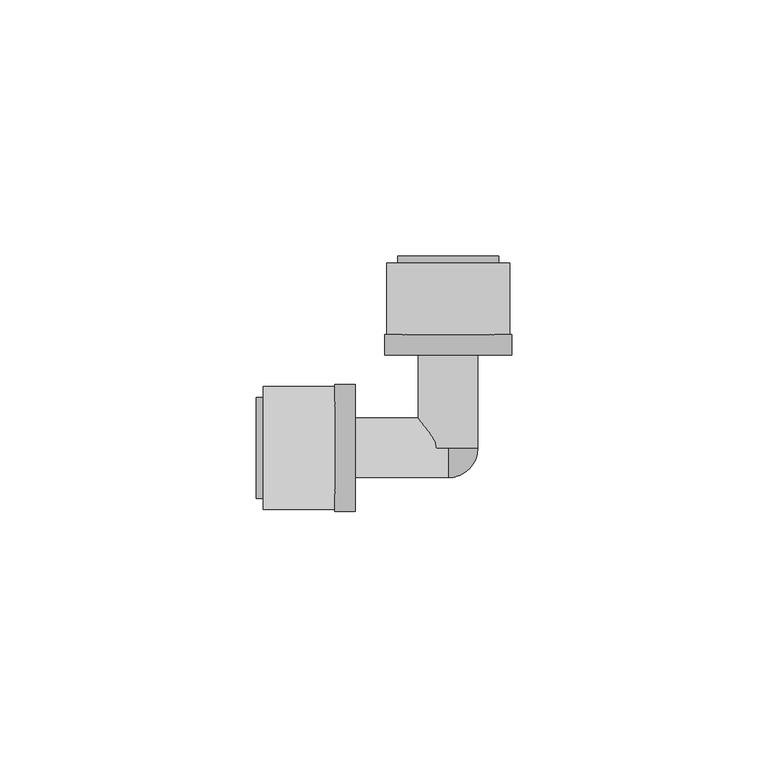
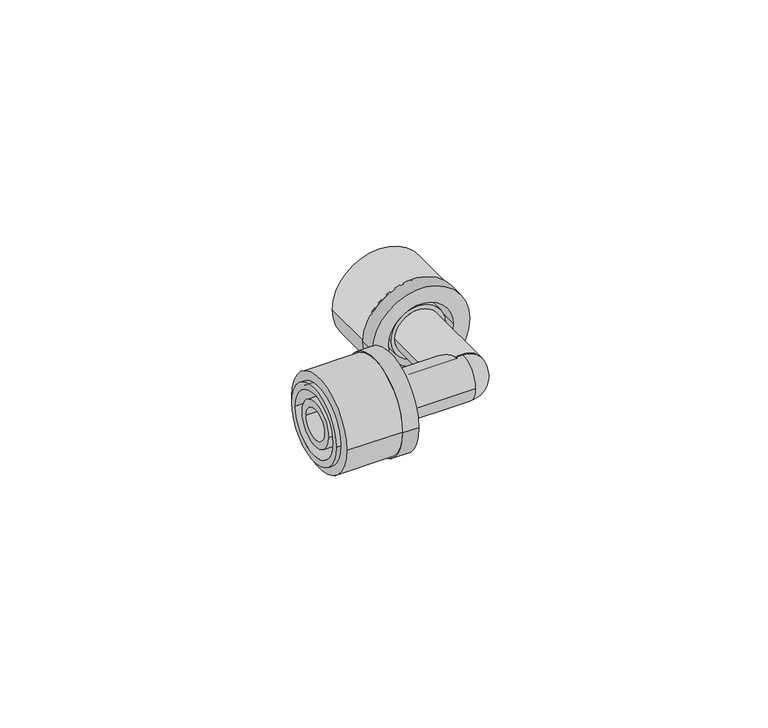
"""IFC4 building model written with IfcOpenShell, lengths in millimetres: pipe fitting geometry, FASTLOC_Corner LX : FSL C LX CZ."""

from ifc_helpers import new_model, si_unit, point, frame, origin, origin_2d, place, context, project, spatial, polyline, circle_curve, ellipse_curve, trimmed, segment, composite_curve, outline, extrude, source, transform, mapped, element, save
from ifc_brep_helpers import plane_surface, cylinder_surface, revolved_surface, advanced_brep


def pipe_fitting_b55198ad(model_context):
    return source(origin(), model_context, "Body", "SolidModel", [
        extrude(outline(composite_curve([segment(trimmed(circle_curve(origin_2d(), 12.0), [point((0.0, 12.0))], [point((0.0, -12.0))], False, "CARTESIAN"), True, "CONTINUOUS"), segment(trimmed(circle_curve(origin_2d(), 12.0), [point((0.0, -12.0))], [point((0.0, 12.0))], False, "CARTESIAN"), True, "CONTINUOUS")], self_intersect=False), holes=[composite_curve([segment(trimmed(circle_curve(origin_2d(), 8.85), [point((0.0, 8.85))], [point((0.0, -8.85))], True, "CARTESIAN"), True, "CONTINUOUS"), segment(trimmed(circle_curve(origin_2d(), 8.85), [point((0.0, -8.85))], [point((0.0, 8.85))], True, "CARTESIAN"), True, "CONTINUOUS")], self_intersect=False)]), frame((0.0, 22.1, 0.0), z_axis=(0.0, 1.0, 0.0), x_axis=(0.0, 0.0, 1.0)), (0.0, 0.0, 1.0), 14.0),
        advanced_brep(
        [(-12.35, 22.1, 0.0), (12.35, 22.1, 0.0), (12.35, 18.1, 0.0), (-12.35, 18.1, 0.0), (-9.85, 37.4, 0.0), (9.85, 37.4, 0.0), (9.85, 22.1, 0.0), (-9.85, 22.1, 0.0), (-8.15, 18.1, 0.0), (8.15, 18.1, 0.0), (8.15, 37.4, 0.0), (-8.15, 37.4, 0.0)],
        [
            (0, 1, circle_curve(frame((0.0, 22.1, 0.0), z_axis=(0.0, -1.0, 0.0), x_axis=(1.0, 0.0, 0.0)), 12.35)),
            (1, 2),
            (2, 3, circle_curve(frame((0.0, 18.1, 0.0), z_axis=(0.0, 1.0, 0.0), x_axis=(1.0, 0.0, 0.0)), 12.35)),
            (3, 0),
            (4, 5, circle_curve(frame((0.0, 37.4, 0.0), z_axis=(0.0, -1.0, 0.0), x_axis=(1.0, 0.0, 0.0)), 9.85)),
            (5, 6),
            (6, 7, circle_curve(frame((0.0, 22.1, 0.0), z_axis=(0.0, 1.0, 0.0), x_axis=(1.0, 0.0, 0.0)), 9.85)),
            (7, 4),
            (8, 9, circle_curve(frame((0.0, 18.1, 0.0), z_axis=(0.0, -1.0, 0.0), x_axis=(1.0, 0.0, 0.0)), 8.15)),
            (9, 10),
            (10, 11, circle_curve(frame((0.0, 37.4, 0.0), z_axis=(0.0, 1.0, 0.0), x_axis=(1.0, 0.0, 0.0)), 8.15)),
            (11, 8),
            (1, 0, circle_curve(frame((0.0, 22.1, 0.0), z_axis=(0.0, -1.0, 0.0), x_axis=(-1.0, 0.0, 0.0)), 12.35)),
            (3, 2, circle_curve(frame((0.0, 18.1, 0.0), z_axis=(0.0, 1.0, 0.0), x_axis=(-1.0, 0.0, 0.0)), 12.35)),
            (6, 7, circle_curve(frame((0.0, 22.1, 0.0), z_axis=(0.0, -1.0, 0.0), x_axis=(-1.0, 0.0, 0.0)), 9.85)),
            (5, 4, circle_curve(frame((0.0, 37.4, 0.0), z_axis=(0.0, -1.0, 0.0), x_axis=(-1.0, 0.0, 0.0)), 9.85)),
            (10, 11, circle_curve(frame((0.0, 37.4, 0.0), z_axis=(0.0, -1.0, 0.0), x_axis=(-1.0, 0.0, 0.0)), 8.15)),
            (9, 8, circle_curve(frame((0.0, 18.1, 0.0), z_axis=(0.0, -1.0, 0.0), x_axis=(-1.0, 0.0, 0.0)), 8.15)),
        ],
        [
            cylinder_surface(frame((0.0, 18.1, 0.0), z_axis=(0.0, 1.0, 0.0), x_axis=(1.0, 0.0, 0.0)), 12.35),
            cylinder_surface(frame((0.0, 18.1, 0.0), z_axis=(0.0, 1.0, 0.0), x_axis=(1.0, 0.0, 0.0)), 9.85),
            revolved_surface(polyline([(8.15, 37.4, 0.0), (8.15, 18.1, 0.0)]), (0.0, 18.1, 0.0), (0.0, 1.0, 0.0)),
            cylinder_surface(frame((0.0, 18.1, 0.0), z_axis=(0.0, 1.0, 0.0), x_axis=(-1.0, 0.0, 0.0)), 12.35),
            plane_surface(frame((0.0, 22.1, 0.0), z_axis=(0.0, 1.0, 0.0), x_axis=(-1.0, 0.0, 0.0))),
            cylinder_surface(frame((0.0, 18.1, 0.0), z_axis=(0.0, 1.0, 0.0), x_axis=(-1.0, 0.0, 0.0)), 9.85),
            plane_surface(frame((0.0, 37.4, 0.0), z_axis=(0.0, 1.0, 0.0), x_axis=(-1.0, 0.0, 0.0))),
            revolved_surface(polyline([(-8.15, 37.4, 0.0), (-8.15, 18.1, 0.0)]), (0.0, 18.1, 0.0), (0.0, 1.0, 0.0)),
            plane_surface(frame((0.0, 18.1, 0.0), z_axis=(0.0, -1.0, 0.0), x_axis=(-1.0, 0.0, 0.0))),
        ],
        [
            (0, [[1, 2, 3, 4]]),
            (1, [[5, 6, 7, 8]]),
            (2, [[9, 10, 11, 12]]),
            (3, [[13, -4, 14, -2]]),
            (4, [[-13, -1], [15, -7]]),
            (5, [[16, -8, -15, -6]]),
            (6, [[-16, -5], [17, -11]]),
            (7, [[18, -12, -17, -10]]),
            (8, [[-14, -3], [-18, -9]]),
        ],
    ),
        extrude(outline(composite_curve([segment(trimmed(circle_curve(origin_2d(), 12.0), [point((12.0, 0.0))], [point((-12.0, 0.0))], False, "CARTESIAN"), True, "CONTINUOUS"), segment(trimmed(circle_curve(origin_2d(), 12.0), [point((-12.0, 0.0))], [point((12.0, 0.0))], False, "CARTESIAN"), True, "CONTINUOUS")], self_intersect=False), holes=[composite_curve([segment(trimmed(circle_curve(origin_2d(), 8.85), [point((8.85, 0.0))], [point((-8.85, 0.0))], True, "CARTESIAN"), True, "CONTINUOUS"), segment(trimmed(circle_curve(origin_2d(), 8.85), [point((-8.85, 0.0))], [point((8.85, 0.0))], True, "CARTESIAN"), True, "CONTINUOUS")], self_intersect=False)]), frame((-36.1, 0.0, 0.0), z_axis=(1.0, 0.0, 0.0), x_axis=(0.0, 1.0, 0.0)), (0.0, 0.0, 1.0), 14.0),
        advanced_brep(
        [(-22.1, -12.35, 0.0), (-22.1, 12.35, 0.0), (-18.1, 12.35, 0.0), (-18.1, -12.35, 0.0), (-37.4, -9.85, 0.0), (-37.4, 9.85, 0.0), (-22.1, 9.85, 0.0), (-22.1, -9.85, 0.0), (-18.1, -8.15, 0.0), (-18.1, 8.15, 0.0), (-37.4, 8.15, 0.0), (-37.4, -8.15, 0.0)],
        [
            (0, 1, circle_curve(frame((-22.1, 0.0, 0.0), z_axis=(1.0, 0.0, 0.0), x_axis=(0.0, 1.0, 0.0)), 12.35)),
            (1, 2),
            (2, 3, circle_curve(frame((-18.1, 0.0, 0.0), z_axis=(-1.0, 0.0, 0.0), x_axis=(0.0, 1.0, 0.0)), 12.35)),
            (3, 0),
            (4, 5, circle_curve(frame((-37.4, 0.0, 0.0), z_axis=(1.0, 0.0, 0.0), x_axis=(0.0, 1.0, 0.0)), 9.85)),
            (5, 6),
            (6, 7, circle_curve(frame((-22.1, 0.0, 0.0), z_axis=(-1.0, 0.0, 0.0), x_axis=(0.0, 1.0, 0.0)), 9.85)),
            (7, 4),
            (8, 9, circle_curve(frame((-18.1, 0.0, 0.0), z_axis=(1.0, 0.0, 0.0), x_axis=(0.0, 1.0, 0.0)), 8.15)),
            (9, 10),
            (10, 11, circle_curve(frame((-37.4, 0.0, 0.0), z_axis=(-1.0, 0.0, 0.0), x_axis=(0.0, 1.0, 0.0)), 8.15)),
            (11, 8),
            (1, 0, circle_curve(frame((-22.1, 0.0, 0.0), z_axis=(1.0, 0.0, 0.0), x_axis=(0.0, -1.0, 0.0)), 12.35)),
            (3, 2, circle_curve(frame((-18.1, 0.0, 0.0), z_axis=(-1.0, 0.0, 0.0), x_axis=(0.0, -1.0, 0.0)), 12.35)),
            (6, 7, circle_curve(frame((-22.1, 0.0, 0.0), z_axis=(1.0, 0.0, 0.0), x_axis=(0.0, -1.0, 0.0)), 9.85)),
            (5, 4, circle_curve(frame((-37.4, 0.0, 0.0), z_axis=(1.0, 0.0, 0.0), x_axis=(0.0, -1.0, 0.0)), 9.85)),
            (10, 11, circle_curve(frame((-37.4, 0.0, 0.0), z_axis=(1.0, 0.0, 0.0), x_axis=(0.0, -1.0, 0.0)), 8.15)),
            (9, 8, circle_curve(frame((-18.1, 0.0, 0.0), z_axis=(1.0, 0.0, 0.0), x_axis=(0.0, -1.0, 0.0)), 8.15)),
        ],
        [
            cylinder_surface(frame((-18.1, 0.0, 0.0), z_axis=(-1.0, 0.0, 0.0), x_axis=(0.0, 1.0, 0.0)), 12.35),
            cylinder_surface(frame((-18.1, 0.0, 0.0), z_axis=(-1.0, 0.0, 0.0), x_axis=(0.0, 1.0, 0.0)), 9.85),
            revolved_surface(polyline([(-37.4, 8.15, 0.0), (-18.1, 8.15, 0.0)]), (-18.1, 0.0, 0.0), (-1.0, 0.0, 0.0)),
            cylinder_surface(frame((-18.1, 0.0, 0.0), z_axis=(-1.0, 0.0, 0.0), x_axis=(0.0, -1.0, 0.0)), 12.35),
            plane_surface(frame((-22.1, 0.0, 0.0), z_axis=(-1.0, 0.0, 0.0), x_axis=(0.0, -1.0, 0.0))),
            cylinder_surface(frame((-18.1, 0.0, 0.0), z_axis=(-1.0, 0.0, 0.0), x_axis=(0.0, -1.0, 0.0)), 9.85),
            plane_surface(frame((-37.4, 0.0, 0.0), z_axis=(-1.0, 0.0, 0.0), x_axis=(0.0, -1.0, 0.0))),
            revolved_surface(polyline([(-37.4, -8.15, 0.0), (-18.1, -8.15, 0.0)]), (-18.1, 0.0, 0.0), (-1.0, 0.0, 0.0)),
            plane_surface(frame((-18.1, 0.0, 0.0), z_axis=(1.0, 0.0, 0.0), x_axis=(0.0, -1.0, 0.0))),
        ],
        [
            (0, [[1, 2, 3, 4]]),
            (1, [[5, 6, 7, 8]]),
            (2, [[9, 10, 11, 12]]),
            (3, [[13, -4, 14, -2]]),
            (4, [[-13, -1], [15, -7]]),
            (5, [[16, -8, -15, -6]]),
            (6, [[-16, -5], [17, -11]]),
            (7, [[18, -12, -17, -10]]),
            (8, [[-14, -3], [-18, -9]]),
        ],
    ),
        advanced_brep(
        [(3.95, 37.1, 0.0), (-3.95, 37.1, 0.0), (-3.95, 0.0, 0.0), (3.95, 0.0, 0.0), (5.8, 22.1, 0.0), (-5.8, 22.1, 0.0), (-5.8, 37.1, 0.0), (5.8, 37.1, 0.0), (6.9, 19.4, 0.0), (-6.9, 19.4, 0.0), (-6.9, 22.1, 0.0), (6.9, 22.1, 0.0), (5.8, 0.0, 0.0), (-5.8, 0.0, 0.0), (-5.8, 19.4, 0.0), (5.8, 19.4, 0.0)],
        [
            (0, 1, circle_curve(frame((0.0, 37.1, 0.0), z_axis=(0.0, 1.0, 0.0), x_axis=(-1.0, 0.0, 0.0)), 3.95)),
            (1, 2),
            (2, 3, circle_curve(frame((0.0, 0.0, 0.0), z_axis=(0.0, -1.0, 0.0), x_axis=(-1.0, 0.0, 0.0)), 3.95)),
            (3, 0),
            (4, 5, circle_curve(frame((0.0, 22.1, 0.0), z_axis=(0.0, 1.0, 0.0), x_axis=(-1.0, 0.0, 0.0)), 5.8)),
            (5, 6),
            (6, 7, circle_curve(frame((0.0, 37.1, 0.0), z_axis=(0.0, -1.0, 0.0), x_axis=(-1.0, 0.0, 0.0)), 5.8)),
            (7, 4),
            (8, 9, circle_curve(frame((0.0, 19.4, 0.0), z_axis=(0.0, 1.0, 0.0), x_axis=(-1.0, 0.0, 0.0)), 6.9)),
            (9, 10),
            (10, 11, circle_curve(frame((0.0, 22.1, 0.0), z_axis=(0.0, -1.0, 0.0), x_axis=(-1.0, 0.0, 0.0)), 6.9)),
            (11, 8),
            (12, 13, circle_curve(frame((0.0, 0.0, 0.0), z_axis=(0.0, 1.0, 0.0), x_axis=(-1.0, 0.0, 0.0)), 5.8)),
            (13, 14),
            (14, 15, circle_curve(frame((0.0, 19.4, 0.0), z_axis=(0.0, -1.0, 0.0), x_axis=(-1.0, 0.0, 0.0)), 5.8)),
            (15, 12),
            (1, 0, circle_curve(frame((0.0, 37.1, 0.0), z_axis=(0.0, 1.0, 0.0), x_axis=(1.0, 0.0, 0.0)), 3.95)),
            (3, 2, circle_curve(frame((0.0, 0.0, 0.0), z_axis=(0.0, -1.0, 0.0), x_axis=(1.0, 0.0, 0.0)), 3.95)),
            (6, 7, circle_curve(frame((0.0, 37.1, 0.0), z_axis=(0.0, 1.0, 0.0), x_axis=(1.0, 0.0, 0.0)), 5.8)),
            (5, 4, circle_curve(frame((0.0, 22.1, 0.0), z_axis=(0.0, 1.0, 0.0), x_axis=(1.0, 0.0, 0.0)), 5.8)),
            (10, 11, circle_curve(frame((0.0, 22.1, 0.0), z_axis=(0.0, 1.0, 0.0), x_axis=(1.0, 0.0, 0.0)), 6.9)),
            (9, 8, circle_curve(frame((0.0, 19.4, 0.0), z_axis=(0.0, 1.0, 0.0), x_axis=(1.0, 0.0, 0.0)), 6.9)),
            (14, 15, circle_curve(frame((0.0, 19.4, 0.0), z_axis=(0.0, 1.0, 0.0), x_axis=(1.0, 0.0, 0.0)), 5.8)),
            (13, 12, circle_curve(frame((0.0, 0.0, 0.0), z_axis=(0.0, 1.0, 0.0), x_axis=(1.0, 0.0, 0.0)), 5.8)),
        ],
        [
            revolved_surface(polyline([(-3.95, 0.0, 0.0), (-3.95, 37.1, 0.0)]), (0.0, 0.0, 0.0), (0.0, -1.0, 0.0)),
            cylinder_surface(frame((0.0, 0.0, 0.0), z_axis=(0.0, -1.0, 0.0), x_axis=(-1.0, 0.0, 0.0)), 5.8),
            cylinder_surface(frame((0.0, 0.0, 0.0), z_axis=(0.0, -1.0, 0.0), x_axis=(-1.0, 0.0, 0.0)), 6.9),
            revolved_surface(polyline([(3.95, 0.0, 0.0), (3.95, 37.1, 0.0)]), (0.0, 0.0, 0.0), (0.0, -1.0, 0.0)),
            plane_surface(frame((0.0, 37.1, 0.0), z_axis=(0.0, 1.0, 0.0), x_axis=(1.0, 0.0, 0.0))),
            cylinder_surface(frame((0.0, 0.0, 0.0), z_axis=(0.0, -1.0, 0.0), x_axis=(1.0, 0.0, 0.0)), 5.8),
            plane_surface(frame((0.0, 22.1, 0.0), z_axis=(0.0, 1.0, 0.0), x_axis=(1.0, 0.0, 0.0))),
            cylinder_surface(frame((0.0, 0.0, 0.0), z_axis=(0.0, -1.0, 0.0), x_axis=(1.0, 0.0, 0.0)), 6.9),
            plane_surface(frame((0.0, 19.4, 0.0), z_axis=(0.0, -1.0, 0.0), x_axis=(1.0, 0.0, 0.0))),
            plane_surface(frame((0.0, 0.0, 0.0), z_axis=(0.0, -1.0, 0.0), x_axis=(1.0, 0.0, 0.0))),
        ],
        [
            (0, [[1, 2, 3, 4]]),
            (1, [[5, 6, 7, 8]]),
            (2, [[9, 10, 11, 12]]),
            (1, [[13, 14, 15, 16]]),
            (3, [[17, -4, 18, -2]]),
            (4, [[19, -7], [-17, -1]]),
            (5, [[20, -8, -19, -6]]),
            (6, [[21, -11], [-20, -5]]),
            (7, [[22, -12, -21, -10]]),
            (8, [[-22, -9], [23, -15]]),
            (5, [[24, -16, -23, -14]]),
            (9, [[-24, -13], [-18, -3]]),
        ],
    ),
        advanced_brep(
        [(-37.1, 3.95, 0.0), (-37.1, -3.95, 0.0), (0.0, -3.95, 0.0), (0.0, 3.95, 0.0), (-22.1, 5.8, 0.0), (-22.1, -5.8, 0.0), (-37.1, -5.8, 0.0), (-37.1, 5.8, 0.0), (-19.4, 6.9, 0.0), (-19.4, -6.9, 0.0), (-22.1, -6.9, 0.0), (-22.1, 6.9, 0.0), (0.0, 5.8, 0.0), (0.0, -5.8, 0.0), (-19.4, -5.8, 0.0), (-19.4, 5.8, 0.0)],
        [
            (0, 1, circle_curve(frame((-37.1, 0.0, 0.0), z_axis=(-1.0, 0.0, 0.0), x_axis=(0.0, -1.0, 0.0)), 3.95)),
            (1, 2),
            (2, 3, circle_curve(frame((0.0, 0.0, 0.0), z_axis=(1.0, 0.0, 0.0), x_axis=(0.0, -1.0, 0.0)), 3.95)),
            (3, 0),
            (4, 5, circle_curve(frame((-22.1, 0.0, 0.0), z_axis=(-1.0, 0.0, 0.0), x_axis=(0.0, -1.0, 0.0)), 5.8)),
            (5, 6),
            (6, 7, circle_curve(frame((-37.1, 0.0, 0.0), z_axis=(1.0, 0.0, 0.0), x_axis=(0.0, -1.0, 0.0)), 5.8)),
            (7, 4),
            (8, 9, circle_curve(frame((-19.4, 0.0, 0.0), z_axis=(-1.0, 0.0, 0.0), x_axis=(0.0, -1.0, 0.0)), 6.9)),
            (9, 10),
            (10, 11, circle_curve(frame((-22.1, 0.0, 0.0), z_axis=(1.0, 0.0, 0.0), x_axis=(0.0, -1.0, 0.0)), 6.9)),
            (11, 8),
            (12, 13, circle_curve(frame((0.0, 0.0, 0.0), z_axis=(-1.0, 0.0, 0.0), x_axis=(0.0, -1.0, 0.0)), 5.8)),
            (13, 14),
            (14, 15, circle_curve(frame((-19.4, 0.0, 0.0), z_axis=(1.0, 0.0, 0.0), x_axis=(0.0, -1.0, 0.0)), 5.8)),
            (15, 12),
            (1, 0, circle_curve(frame((-37.1, 0.0, 0.0), z_axis=(-1.0, 0.0, 0.0), x_axis=(0.0, 1.0, 0.0)), 3.95)),
            (3, 2, circle_curve(frame((0.0, 0.0, 0.0), z_axis=(1.0, 0.0, 0.0), x_axis=(0.0, 1.0, 0.0)), 3.95)),
            (6, 7, circle_curve(frame((-37.1, 0.0, 0.0), z_axis=(-1.0, 0.0, 0.0), x_axis=(0.0, 1.0, 0.0)), 5.8)),
            (5, 4, circle_curve(frame((-22.1, 0.0, 0.0), z_axis=(-1.0, 0.0, 0.0), x_axis=(0.0, 1.0, 0.0)), 5.8)),
            (10, 11, circle_curve(frame((-22.1, 0.0, 0.0), z_axis=(-1.0, 0.0, 0.0), x_axis=(0.0, 1.0, 0.0)), 6.9)),
            (9, 8, circle_curve(frame((-19.4, 0.0, 0.0), z_axis=(-1.0, 0.0, 0.0), x_axis=(0.0, 1.0, 0.0)), 6.9)),
            (14, 15, circle_curve(frame((-19.4, 0.0, 0.0), z_axis=(-1.0, 0.0, 0.0), x_axis=(0.0, 1.0, 0.0)), 5.8)),
            (13, 12, circle_curve(frame((0.0, 0.0, 0.0), z_axis=(-1.0, 0.0, 0.0), x_axis=(0.0, 1.0, 0.0)), 5.8)),
        ],
        [
            revolved_surface(polyline([(0.0, -3.95, 0.0), (-37.1, -3.95, 0.0)]), (0.0, 0.0, 0.0), (1.0, 0.0, 0.0)),
            cylinder_surface(frame((0.0, 0.0, 0.0), z_axis=(1.0, 0.0, 0.0), x_axis=(0.0, -1.0, 0.0)), 5.8),
            cylinder_surface(frame((0.0, 0.0, 0.0), z_axis=(1.0, 0.0, 0.0), x_axis=(0.0, -1.0, 0.0)), 6.9),
            revolved_surface(polyline([(0.0, 3.95, 0.0), (-37.1, 3.95, 0.0)]), (0.0, 0.0, 0.0), (1.0, 0.0, 0.0)),
            plane_surface(frame((-37.1, 0.0, 0.0), z_axis=(-1.0, 0.0, 0.0), x_axis=(0.0, 1.0, 0.0))),
            cylinder_surface(frame((0.0, 0.0, 0.0), z_axis=(1.0, 0.0, 0.0), x_axis=(0.0, 1.0, 0.0)), 5.8),
            plane_surface(frame((-22.1, 0.0, 0.0), z_axis=(-1.0, 0.0, 0.0), x_axis=(0.0, 1.0, 0.0))),
            cylinder_surface(frame((0.0, 0.0, 0.0), z_axis=(1.0, 0.0, 0.0), x_axis=(0.0, 1.0, 0.0)), 6.9),
            plane_surface(frame((-19.4, 0.0, 0.0), z_axis=(1.0, 0.0, 0.0), x_axis=(0.0, 1.0, 0.0))),
            plane_surface(frame((0.0, 0.0, 0.0), z_axis=(1.0, 0.0, 0.0), x_axis=(0.0, 1.0, 0.0))),
        ],
        [
            (0, [[1, 2, 3, 4]]),
            (1, [[5, 6, 7, 8]]),
            (2, [[9, 10, 11, 12]]),
            (1, [[13, 14, 15, 16]]),
            (3, [[17, -4, 18, -2]]),
            (4, [[19, -7], [-17, -1]]),
            (5, [[20, -8, -19, -6]]),
            (6, [[21, -11], [-20, -5]]),
            (7, [[22, -12, -21, -10]]),
            (8, [[-22, -9], [23, -15]]),
            (5, [[24, -16, -23, -14]]),
            (9, [[-24, -13], [-18, -3]]),
        ],
    ),
        advanced_brep(
        [(0.0, 0.0, 5.8), (0.0, 0.0, 0.0), (0.0, -5.8, 0.0), (0.0, 0.0, -5.8)],
        [
            (0, 1),
            (1, 2),
            (2, 0, circle_curve(frame((0.0, 0.0, 0.0), z_axis=(-1.0, 0.0, 0.0), x_axis=(0.0, 0.0, 1.0)), 5.8)),
            (3, 2, circle_curve(frame((0.0, 0.0, 0.0), z_axis=(-1.0, 0.0, 0.0), x_axis=(0.0, 0.0, -1.0)), 5.8)),
            (1, 3),
            (0, 3, circle_curve(frame((0.0, 0.0, 0.0), z_axis=(0.0, 1.0, 0.0), x_axis=(0.0, 0.0, 1.0)), 5.8)),
        ],
        [
            plane_surface(frame((0.0, 0.0, 0.0), z_axis=(-1.0, 0.0, 0.0), x_axis=(0.0, 0.0, 1.0))),
            plane_surface(frame((0.0, 0.0, 0.0), z_axis=(-1.0, 0.0, 0.0), x_axis=(0.0, 0.0, -1.0))),
            plane_surface(frame((0.0, 0.0, 0.0), z_axis=(0.0, 1.0, 0.0), x_axis=(0.0, 0.0, 1.0))),
            revolved_surface(trimmed(ellipse_curve(frame((0.0, 0.0, 0.0), z_axis=(-1.0, 0.0, 0.0), x_axis=(0.0, 0.0, 1.0)), 5.8, 5.8), [point((0.0, -5.8, 0.0))], [point((0.0, 0.0, 5.8))], True, "CARTESIAN"), (0.0, 0.0, 0.0), (0.0, 1.0, 0.0)),
        ],
        [
            (0, [[1, 2, 3]]),
            (1, [[4, -2, 5]]),
            (2, [[-1, 6, -5]]),
            (3, [[-6, -3, -4]]),
        ],
    ),
    ])


if __name__ == "__main__":
    model = new_model("IFC4")
    model_context = context("Model", 3, world=origin())
    ifc_project = project(units=[si_unit("LENGTHUNIT", "METRE", prefix="MILLI")], contexts=[model_context])
    site = spatial("IfcSite", under=ifc_project)
    building = spatial("IfcBuilding", under=site)
    placement = place(None, origin())
    pipe_fitting_shape = pipe_fitting_b55198ad(model_context)
    element("IfcPipeFitting", 1, ObjectType="FASTLOC_Corner LX : FSL C LX CZ", at=placement, inside=building, context=model_context, shape_type="MappedRepresentation", body=[
        mapped(pipe_fitting_shape, transform((0.0, 0.0, 0.0), x_axis=(1.0, 0.0, 0.0), y_axis=(0.0, 1.0, 0.0), z_axis=(0.0, 0.0, 1.0))),
    ])
    save(model, "model.ifc")
